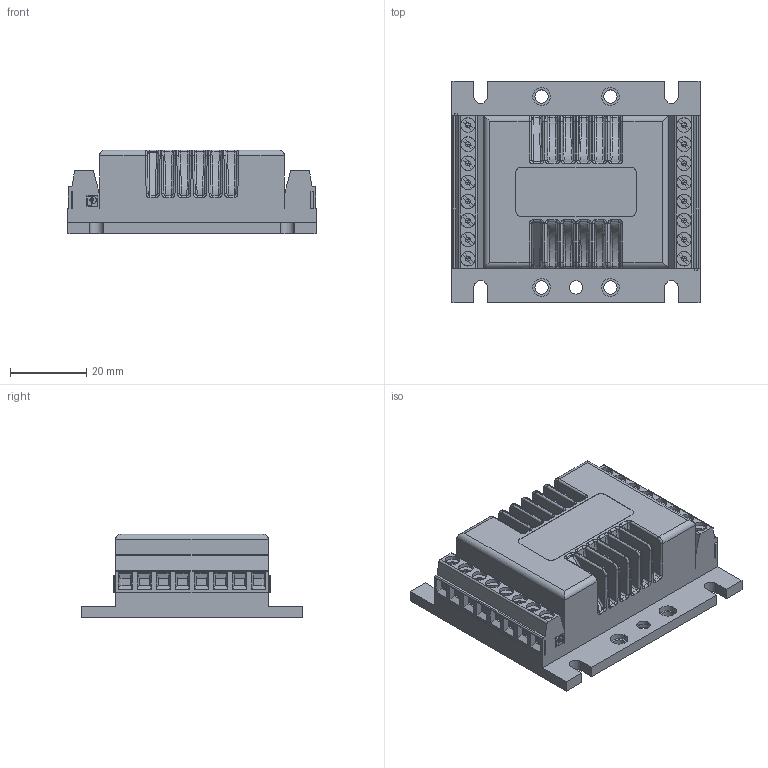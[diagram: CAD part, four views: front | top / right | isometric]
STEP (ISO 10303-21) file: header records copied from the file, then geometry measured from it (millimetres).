
FILE_DESCRIPTION(/* description */ (''),/* implementation_level */ '2;1');
FILE_NAME(/* name */ 'SC2804_5008.stp',/* time_stamp */ '2012-07-13T14:22:50+02:00',/* author */ ('DR. FRITZ FAULHABER GmbH & Co. KG'),/* organization */ ('DR. FRITZ FAULHABER GmbH & Co. KG'),/* preprocessor_version */ 'ST-DEVELOPER v11',/* originating_system */ 'SIEMENS PLM Software NX 7.5',/* authorisation */ '');
FILE_SCHEMA (('AUTOMOTIVE_DESIGN { 1 0 10303 214 1 1 1 1 }'));
Length unit declared in the file: millimetre
Products named in the file (1): SC2804_5008
Bounding box: 65 x 58 x 22 mm (x, y, z)
Volume: 51332 mm3; surface area: 17574.3 mm2
Topology: 1 solids, 21 shells, 1285 faces, 3080 edges, 1903 vertices
Faces by surface type: plane 778, cylinder 382, bspline 108, cone 9, torus 8
Full cylindrical faces by diameter (mm): 2.5 x4, 2.9 x4, 3.5 x5, 4.6 x4, 4.7 x4, 5.5 x4, 6.5 x1
Entity records: 39935 total; most frequent: CARTESIAN_POINT 10359, DIRECTION 6164, ORIENTED_EDGE 6030, EDGE_CURVE 3015, AXIS2_PLACEMENT_3D 2123, LINE 1918, VECTOR 1918, VERTEX_POINT 1885
